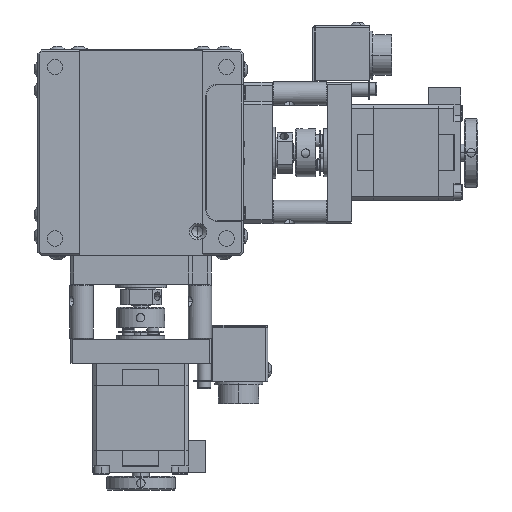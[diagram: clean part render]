
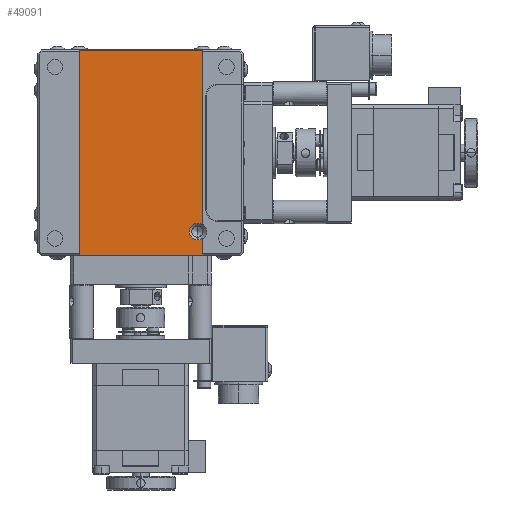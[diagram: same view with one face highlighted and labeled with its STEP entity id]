
A CAD part, front view. The second image highlights one B-rep face of the part: STEP entity #49091.
In plain terms, the highlighted planar face has unit normal (0, -1, 0).
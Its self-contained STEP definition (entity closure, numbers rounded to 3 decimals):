
#590 = LINE ( 'NONE', #10400, #12407 ) ;
#643 = AXIS2_PLACEMENT_3D ( 'NONE', #38941, #9091, #23811 ) ;
#3081 = EDGE_CURVE ( 'NONE', #42833, #6963, #57162, .T. ) ;
#4062 = DIRECTION ( 'NONE',  ( 0., 1., 0. ) ) ;
#5943 = ORIENTED_EDGE ( 'NONE', *, *, #28191, .T. ) ;
#6088 = ORIENTED_EDGE ( 'NONE', *, *, #44123, .T. ) ;
#6449 = CARTESIAN_POINT ( 'NONE',  ( 18.349, -13.358, 34.6 ) ) ;
#6963 = VERTEX_POINT ( 'NONE', #18221 ) ;
#6991 = ORIENTED_EDGE ( 'NONE', *, *, #31751, .T. ) ;
#7326 = EDGE_CURVE ( 'NONE', #6963, #26072, #32865, .T. ) ;
#7657 = PLANE ( 'NONE',  #22328 ) ;
#8203 = EDGE_CURVE ( 'NONE', #32912, #52502, #45989, .T. ) ;
#9091 = DIRECTION ( 'NONE',  ( 0., 1., 0. ) ) ;
#10217 = VECTOR ( 'NONE', #62754, 1000. ) ;
#10400 = CARTESIAN_POINT ( 'NONE',  ( 1.849, -13.358, 89.8 ) ) ;
#12407 = VECTOR ( 'NONE', #30395, 1000. ) ;
#12978 = CARTESIAN_POINT ( 'NONE',  ( 19.849, -13.358, 30. ) ) ;
#13829 = CIRCLE ( 'NONE', #63082, 2.4 ) ;
#15180 = DIRECTION ( 'NONE',  ( 0., 0., -1. ) ) ;
#15231 = CARTESIAN_POINT ( 'NONE',  ( 19.849, -13.358, 89.8 ) ) ;
#16531 = DIRECTION ( 'NONE',  ( 0., 0., -1. ) ) ;
#17120 = VERTEX_POINT ( 'NONE', #6449 ) ;
#17274 = EDGE_LOOP ( 'NONE', ( #61015, #6088, #5943, #53967, #27942, #58809, #6991, #59456 ) ) ;
#17320 = VERTEX_POINT ( 'NONE', #37575 ) ;
#17872 = LINE ( 'NONE', #12978, #27508 ) ;
#18000 = CARTESIAN_POINT ( 'NONE',  ( 19.849, -13.358, 38.873 ) ) ;
#18221 = CARTESIAN_POINT ( 'NONE',  ( -16.151, -13.358, 30.2 ) ) ;
#18575 = CARTESIAN_POINT ( 'NONE',  ( -16.151, -13.358, 89.8 ) ) ;
#21772 = VERTEX_POINT ( 'NONE', #56694 ) ;
#22314 = CARTESIAN_POINT ( 'NONE',  ( 19.849, -13.358, 30. ) ) ;
#22328 = AXIS2_PLACEMENT_3D ( 'NONE', #56600, #36535, #16531 ) ;
#22524 = DIRECTION ( 'NONE',  ( 0., 0., -1. ) ) ;
#23811 = DIRECTION ( 'NONE',  ( 0., 0., -1. ) ) ;
#24661 = CARTESIAN_POINT ( 'NONE',  ( 18.349, -13.358, 37. ) ) ;
#26072 = VERTEX_POINT ( 'NONE', #60519 ) ;
#27508 = VECTOR ( 'NONE', #37899, 1000. ) ;
#27942 = ORIENTED_EDGE ( 'NONE', *, *, #37306, .T. ) ;
#28191 = EDGE_CURVE ( 'NONE', #17320, #17120, #40420, .T. ) ;
#30395 = DIRECTION ( 'NONE',  ( -1., 0., 0. ) ) ;
#31226 = AXIS2_PLACEMENT_3D ( 'NONE', #47830, #47505, #22524 ) ;
#31751 = EDGE_CURVE ( 'NONE', #52502, #42833, #590, .T. ) ;
#32486 = CARTESIAN_POINT ( 'NONE',  ( -16.151, -13.358, 30. ) ) ;
#32865 = LINE ( 'NONE', #42734, #10217 ) ;
#32912 = VERTEX_POINT ( 'NONE', #18000 ) ;
#36340 = EDGE_CURVE ( 'NONE', #17120, #21772, #13829, .T. ) ;
#36535 = DIRECTION ( 'NONE',  ( 0., -1., 0. ) ) ;
#37306 = EDGE_CURVE ( 'NONE', #21772, #32912, #43928, .T. ) ;
#37575 = CARTESIAN_POINT ( 'NONE',  ( 19.849, -13.358, 35.127 ) ) ;
#37899 = DIRECTION ( 'NONE',  ( 0., 0., 1. ) ) ;
#38941 = CARTESIAN_POINT ( 'NONE',  ( 18.349, -13.358, 37. ) ) ;
#40420 = CIRCLE ( 'NONE', #643, 2.4 ) ;
#42454 = FACE_OUTER_BOUND ( 'NONE', #17274, .T. ) ;
#42734 = CARTESIAN_POINT ( 'NONE',  ( 1.849, -13.358, 30.2 ) ) ;
#42833 = VERTEX_POINT ( 'NONE', #18575 ) ;
#43904 = VECTOR ( 'NONE', #62720, 1000. ) ;
#43928 = CIRCLE ( 'NONE', #31226, 2.4 ) ;
#44123 = EDGE_CURVE ( 'NONE', #26072, #17320, #17872, .T. ) ;
#45812 = VECTOR ( 'NONE', #51556, 1000. ) ;
#45989 = LINE ( 'NONE', #22314, #43904 ) ;
#47505 = DIRECTION ( 'NONE',  ( 0., 1., 0. ) ) ;
#47830 = CARTESIAN_POINT ( 'NONE',  ( 18.349, -13.358, 37. ) ) ;
#49091 = ADVANCED_FACE ( 'NONE', ( #42454 ), #7657, .T. ) ;
#51556 = DIRECTION ( 'NONE',  ( 0., 0., -1. ) ) ;
#52502 = VERTEX_POINT ( 'NONE', #15231 ) ;
#53967 = ORIENTED_EDGE ( 'NONE', *, *, #36340, .T. ) ;
#56600 = CARTESIAN_POINT ( 'NONE',  ( 1.849, -13.358, 30. ) ) ;
#56694 = CARTESIAN_POINT ( 'NONE',  ( 18.349, -13.358, 39.4 ) ) ;
#57162 = LINE ( 'NONE', #32486, #45812 ) ;
#58809 = ORIENTED_EDGE ( 'NONE', *, *, #8203, .T. ) ;
#59456 = ORIENTED_EDGE ( 'NONE', *, *, #3081, .T. ) ;
#60519 = CARTESIAN_POINT ( 'NONE',  ( 19.849, -13.358, 30.2 ) ) ;
#61015 = ORIENTED_EDGE ( 'NONE', *, *, #7326, .T. ) ;
#62720 = DIRECTION ( 'NONE',  ( 0., 0., 1. ) ) ;
#62754 = DIRECTION ( 'NONE',  ( 1., 0., 0. ) ) ;
#63082 = AXIS2_PLACEMENT_3D ( 'NONE', #24661, #4062, #15180 ) ;
